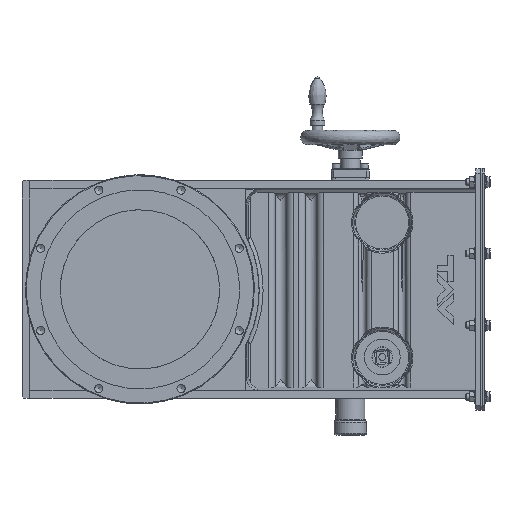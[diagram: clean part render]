
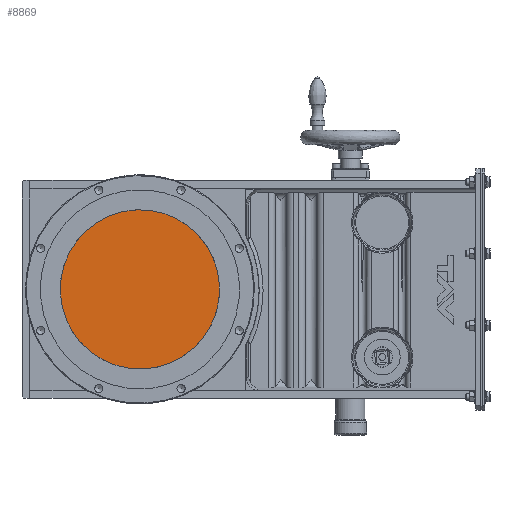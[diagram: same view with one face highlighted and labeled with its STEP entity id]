
A CAD part, front view. The second image highlights one B-rep face of the part: STEP entity #8869.
In plain terms, the highlighted planar face has unit normal (0, -1, 0).
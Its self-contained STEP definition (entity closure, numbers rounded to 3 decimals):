
#5517=FACE_OUTER_BOUND('',#11959,.T.);
#8869=ADVANCED_FACE('',(#5517),#10029,.T.);
#10029=PLANE('',#24000);
#11959=EDGE_LOOP('',(#13573));
#13573=ORIENTED_EDGE('',*,*,#20534,.T.);
#18740=VERTEX_POINT('',#31308);
#20534=EDGE_CURVE('',#18740,#18740,#23121,.T.);
#23121=CIRCLE('',#23997,100.175);
#23997=AXIS2_PLACEMENT_3D('',#31307,#26036,#26037);
#24000=AXIS2_PLACEMENT_3D('',#31311,#26042,#26043);
#26036=DIRECTION('',(0.,-1.,0.));
#26037=DIRECTION('',(0.,0.,-1.));
#26042=DIRECTION('',(0.,-1.,0.));
#26043=DIRECTION('',(0.,0.,-1.));
#31307=CARTESIAN_POINT('',(-421.85,-0.84,133.2));
#31308=CARTESIAN_POINT('',(-421.85,-0.84,33.025));
#31311=CARTESIAN_POINT('',(-421.85,-0.84,133.2));
